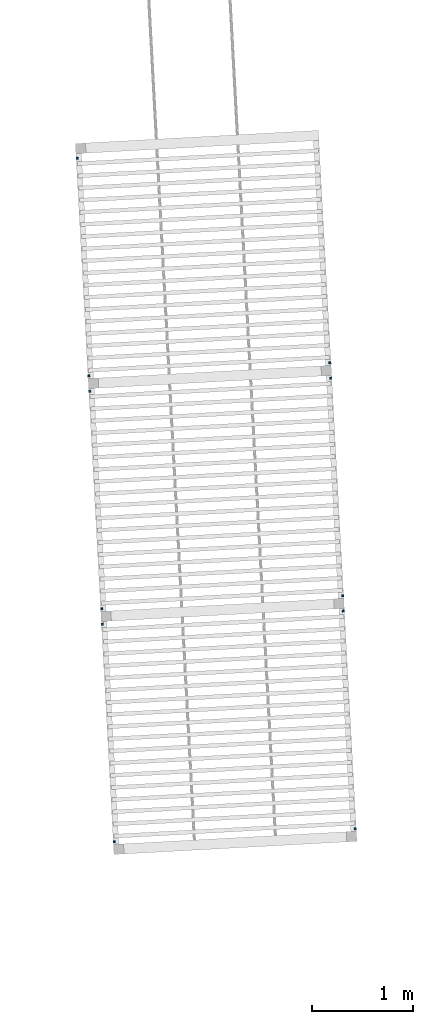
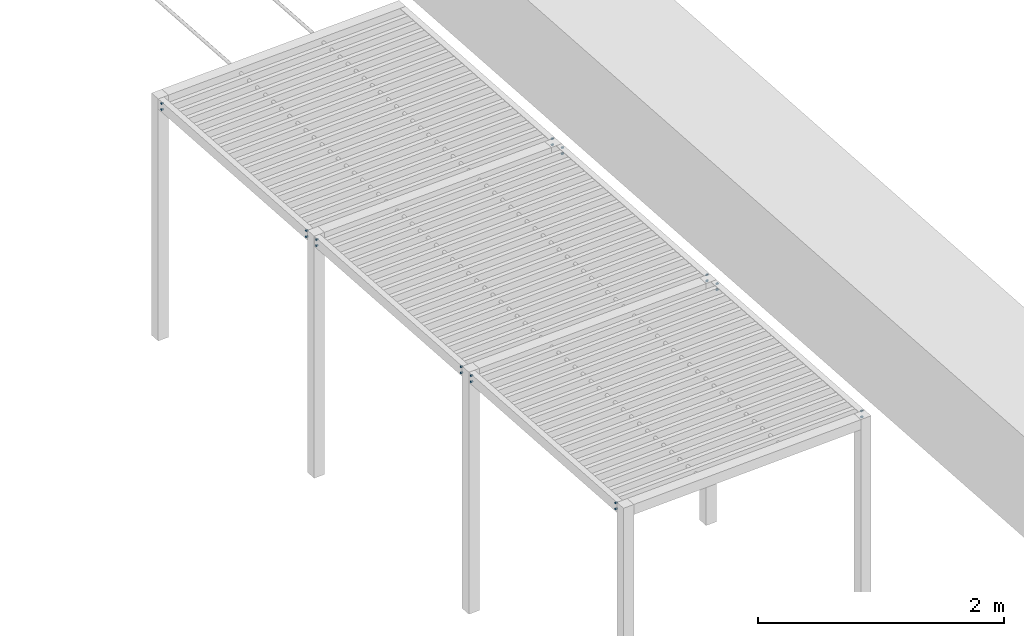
# One storey, part 3 of 438: 22 beams.
"""IFC2X3 building model written with IfcOpenShell, lengths in millimetres."""

from ifc_helpers import new_model, entity, si_unit, converted_unit, derived_unit, direction, frame, origin, origin_2d_with_axis, place, context, subcontext, project, spatial, circle, extrude, material, type_object, element, save


model = new_model("IFC2X3")

# Units and contexts
model_context = context("Model", 3, precision=0.01, world=origin(), true_north=direction((6.123031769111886e-17, 1.0)))
body_context = subcontext(model_context, "Body", "Model", "MODEL_VIEW")
ifc_project = project(units=[si_unit("LENGTHUNIT", "METRE", prefix="MILLI"), si_unit("AREAUNIT", "SQUARE_METRE"), si_unit("VOLUMEUNIT", "CUBIC_METRE"), converted_unit("PLANEANGLEUNIT", "DEGREE", entity("IfcRatioMeasure", 0.017453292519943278), si_unit("PLANEANGLEUNIT", "RADIAN"), dimensions=[0, 0, 0, 0, 0, 0, 0]), si_unit("MASSUNIT", "GRAM", prefix="KILO"), derived_unit("MASSDENSITYUNIT", [(si_unit("MASSUNIT", "GRAM", prefix="KILO"), 1), (si_unit("LENGTHUNIT", "METRE"), -3)]), derived_unit("MOMENTOFINERTIAUNIT", [(si_unit("LENGTHUNIT", "METRE"), 4)]), si_unit("TIMEUNIT", "SECOND"), si_unit("FREQUENCYUNIT", "HERTZ"), si_unit("THERMODYNAMICTEMPERATUREUNIT", "DEGREE_CELSIUS"), derived_unit("THERMALTRANSMITTANCEUNIT", [(si_unit("MASSUNIT", "GRAM", prefix="KILO"), 1), (si_unit("THERMODYNAMICTEMPERATUREUNIT", "KELVIN"), -1), (si_unit("TIMEUNIT", "SECOND"), -3)]), derived_unit("THERMALCONDUCTANCEUNIT", [(si_unit("MASSUNIT", "GRAM", prefix="KILO"), 1), (si_unit("LENGTHUNIT", "METRE"), 1), (si_unit("THERMODYNAMICTEMPERATUREUNIT", "KELVIN"), -1), (si_unit("TIMEUNIT", "SECOND"), -3)]), derived_unit("VOLUMETRICFLOWRATEUNIT", [(si_unit("LENGTHUNIT", "METRE"), 3), (si_unit("TIMEUNIT", "SECOND"), -1)]), derived_unit("MASSFLOWRATEUNIT", [(si_unit("MASSUNIT", "GRAM", prefix="KILO"), 1), (si_unit("TIMEUNIT", "SECOND"), -1)]), derived_unit("ROTATIONALFREQUENCYUNIT", [(si_unit("TIMEUNIT", "SECOND"), -1)]), si_unit("ELECTRICCURRENTUNIT", "AMPERE"), si_unit("ELECTRICVOLTAGEUNIT", "VOLT"), si_unit("POWERUNIT", "WATT"), converted_unit("FORCEUNIT", "KIP", entity("IfcRatioMeasure", 2.088543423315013e-05), si_unit("FORCEUNIT", "NEWTON"), dimensions=[1, 1, -2, 0, 0, 0, 0]), si_unit("ILLUMINANCEUNIT", "LUX"), si_unit("LUMINOUSFLUXUNIT", "LUMEN"), si_unit("LUMINOUSINTENSITYUNIT", "CANDELA"), derived_unit("USERDEFINED", [(si_unit("MASSUNIT", "GRAM", prefix="KILO"), -1), (si_unit("LENGTHUNIT", "METRE"), -2), (si_unit("TIMEUNIT", "SECOND"), 3), (si_unit("LUMINOUSFLUXUNIT", "LUMEN"), 1)]), derived_unit("USERDEFINED", [(si_unit("MASSUNIT", "GRAM", prefix="KILO"), 1), (si_unit("LENGTHUNIT", "METRE"), 3), (si_unit("TIMEUNIT", "SECOND"), -3), (si_unit("ELECTRICCURRENTUNIT", "AMPERE"), -2)]), derived_unit("USERDEFINED", [(si_unit("LENGTHUNIT", "METRE"), 2), (si_unit("TIMEUNIT", "SECOND"), -2)]), derived_unit("SOUNDPOWERUNIT", [(si_unit("MASSUNIT", "GRAM", prefix="KILO"), 1), (si_unit("LENGTHUNIT", "METRE"), 2), (si_unit("TIMEUNIT", "SECOND"), -3)]), derived_unit("SOUNDPRESSUREUNIT", [(si_unit("MASSUNIT", "GRAM", prefix="KILO"), 1), (si_unit("LENGTHUNIT", "METRE"), -1), (si_unit("TIMEUNIT", "SECOND"), -2)]), derived_unit("LINEARVELOCITYUNIT", [(si_unit("LENGTHUNIT", "METRE"), 1), (si_unit("TIMEUNIT", "SECOND"), -1)]), si_unit("PRESSUREUNIT", "PASCAL"), derived_unit("USERDEFINED", [(si_unit("LENGTHUNIT", "METRE"), -2), (si_unit("MASSUNIT", "GRAM", prefix="KILO"), 1), (si_unit("TIMEUNIT", "SECOND"), -2)]), derived_unit("LINEARFORCEUNIT", [(si_unit("MASSUNIT", "GRAM", prefix="KILO"), 1), (si_unit("LENGTHUNIT", "METRE"), 1), (si_unit("TIMEUNIT", "SECOND"), -2), (si_unit("LENGTHUNIT", "METRE"), -1)]), derived_unit("PLANARFORCEUNIT", [(si_unit("MASSUNIT", "GRAM", prefix="KILO"), 1), (si_unit("LENGTHUNIT", "METRE"), 1), (si_unit("TIMEUNIT", "SECOND"), -2), (si_unit("LENGTHUNIT", "METRE"), -2)]), derived_unit("SPECIFICHEATCAPACITYUNIT", [(si_unit("LENGTHUNIT", "METRE"), 2), (si_unit("TIMEUNIT", "SECOND"), -2), (si_unit("THERMODYNAMICTEMPERATUREUNIT", "KELVIN"), -1)]), derived_unit("VAPORPERMEABILITYUNIT", [(si_unit("TIMEUNIT", "SECOND"), 1), (si_unit("LENGTHUNIT", "METRE"), -1)]), derived_unit("DYNAMICVISCOSITYUNIT", [(si_unit("MASSUNIT", "GRAM", prefix="KILO"), 1), (si_unit("LENGTHUNIT", "METRE"), -1), (si_unit("TIMEUNIT", "SECOND"), -1)]), derived_unit("THERMALEXPANSIONCOEFFICIENTUNIT", [(si_unit("THERMODYNAMICTEMPERATUREUNIT", "KELVIN"), -1)])], contexts=[model_context])

# Site, building, storey
site_placement = place(None, frame((0.0, 0.0, 0.0), z_axis=(0.0, 0.0, 1.0), x_axis=(0.8191520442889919, 0.5735764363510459, 0.0)))
site = spatial("IfcSite", under=ifc_project, at=site_placement, Name="Default", CompositionType="ELEMENT")
building_placement = place(site_placement, origin())
building = spatial("IfcBuilding", under=site, at=building_placement, CompositionType="ELEMENT")
storey_placement = place(building_placement, origin())
storey = spatial("IfcBuildingStorey", under=building, at=storey_placement, Name="PLAN", CompositionType="ELEMENT", Elevation=0.0)

# Beams
ifc_material = material(Name="Paint-02.3")
beam_type = type_object("IfcBeamType", Name="Beam-124 291688:Beam-124 291688", PredefinedType="NOTDEFINED")
beam_1_placement = place(storey_placement, origin())
element("IfcBeam", 1, at=beam_1_placement, inside=storey, type_object=beam_type, material=ifc_material, Name="Beam-124", ObjectType="Beam-124 291688:Beam-124 291688", context=body_context, shape_type="SweptSolid", body=[
    extrude(circle(Radius=10.0, at=origin_2d_with_axis()), frame((-18042.56893763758, 88583.55074972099, 320.0), z_axis=(0.8490404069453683, -0.5283279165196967, 0.0), x_axis=(0.0, 0.0, 1.0)), (0.0, 0.0, 1.0), 19.99999999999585),
])
beam_2_placement = place(storey_placement, origin())
element("IfcBeam", 2, at=beam_2_placement, inside=storey, type_object=beam_type, material=ifc_material, Name="Beam-124", ObjectType="Beam-124 291688:Beam-124 291688", context=body_context, shape_type="SweptSolid", body=[
    extrude(circle(Radius=10.0, at=origin_2d_with_axis()), frame((-20142.534293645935, 89713.6151299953, 380.0), z_axis=(0.8490404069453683, -0.5283279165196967, 0.0), x_axis=(0.0, 0.0, 1.0)), (0.0, 0.0, 1.0), 19.9999999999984),
])
beam_3_placement = place(storey_placement, origin())
element("IfcBeam", 3, at=beam_3_placement, inside=storey, type_object=beam_type, material=ifc_material, Name="Beam-124", ObjectType="Beam-124 291688:Beam-124 291688", context=body_context, shape_type="SweptSolid", body=[
    extrude(circle(Radius=10.0, at=origin_2d_with_axis()), frame((-21278.439314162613, 87888.17825506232, 380.0), z_axis=(0.8490404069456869, -0.5283279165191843, 0.0), x_axis=(0.0, 0.0, 1.0)), (0.0, 0.0, 1.0), 19.999999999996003),
])
beam_4_placement = place(storey_placement, origin())
element("IfcBeam", 4, at=beam_4_placement, inside=storey, type_object=beam_type, material=ifc_material, Name="Beam-124", ObjectType="Beam-124 291688:Beam-124 291688", context=body_context, shape_type="SweptSolid", body=[
    extrude(circle(Radius=10.0, at=origin_2d_with_axis()), frame((-21278.439314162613, 87888.17825506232, 320.0), z_axis=(0.8490404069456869, -0.5283279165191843, 0.0), x_axis=(0.0, 0.0, 1.0)), (0.0, 0.0, 1.0), 19.999999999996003),
])
beam_5_placement = place(storey_placement, origin())
element("IfcBeam", 5, at=beam_5_placement, inside=storey, type_object=beam_type, material=ifc_material, Name="Beam-124", ObjectType="Beam-124 291688:Beam-124 291688", context=body_context, shape_type="SweptSolid", body=[
    extrude(circle(Radius=10.0, at=origin_2d_with_axis()), frame((-18927.38008565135, 91666.40806597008, 320.0), z_axis=(0.8490404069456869, -0.5283279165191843, 0.0), x_axis=(0.0, 0.0, 1.0)), (0.0, 0.0, 1.0), 19.999999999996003),
])
beam_6_placement = place(storey_placement, origin())
element("IfcBeam", 6, at=beam_6_placement, inside=storey, type_object=beam_type, material=ifc_material, Name="Beam-124", ObjectType="Beam-124 291688:Beam-124 291688", context=body_context, shape_type="SweptSolid", body=[
    extrude(circle(Radius=10.0, at=origin_2d_with_axis()), frame((-18042.56893763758, 88583.55074972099, 380.0), z_axis=(0.8490404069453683, -0.5283279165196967, 0.0), x_axis=(0.0, 0.0, 1.0)), (0.0, 0.0, 1.0), 19.99999999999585),
])
beam_7_placement = place(storey_placement, origin())
element("IfcBeam", 7, at=beam_7_placement, inside=storey, type_object=beam_type, material=ifc_material, Name="Beam-124", ObjectType="Beam-124 291688:Beam-124 291688", context=body_context, shape_type="SweptSolid", body=[
    extrude(circle(Radius=10.0, at=origin_2d_with_axis()), frame((-20063.28510616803, 89840.97119103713, 320.0), z_axis=(0.8490404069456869, -0.5283279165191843, 0.0), x_axis=(0.0, 0.0, 1.0)), (0.0, 0.0, 1.0), 19.999999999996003),
])
beam_8_placement = place(storey_placement, origin())
element("IfcBeam", 8, at=beam_8_placement, inside=storey, type_object=beam_type, material=ifc_material, Name="Beam-124", ObjectType="Beam-124 291688:Beam-124 291688", context=body_context, shape_type="SweptSolid", body=[
    extrude(circle(Radius=10.0, at=origin_2d_with_axis()), frame((-18927.38008565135, 91666.40806597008, 380.0), z_axis=(0.8490404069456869, -0.5283279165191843, 0.0), x_axis=(0.0, 0.0, 1.0)), (0.0, 0.0, 1.0), 19.999999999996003),
])
beam_9_placement = place(storey_placement, origin())
element("IfcBeam", 9, at=beam_9_placement, inside=storey, type_object=beam_type, material=ifc_material, Name="Beam-124", ObjectType="Beam-124 291688:Beam-124 291688", context=body_context, shape_type="SweptSolid", body=[
    extrude(circle(Radius=10.0, at=origin_2d_with_axis()), frame((-19336.97233311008, 86503.40175270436, 320.0), z_axis=(0.8490404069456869, -0.5283279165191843, 0.0), x_axis=(0.0, 0.0, 1.0)), (0.0, 0.0, 1.0), 19.999999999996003),
])
beam_10_placement = place(storey_placement, origin())
element("IfcBeam", 10, at=beam_10_placement, inside=storey, type_object=beam_type, material=ifc_material, Name="Beam-124", ObjectType="Beam-124 291688:Beam-124 291688", context=body_context, shape_type="SweptSolid", body=[
    extrude(circle(Radius=10.0, at=origin_2d_with_axis()), frame((-22493.5935221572, 85935.38531908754, 380.0), z_axis=(0.8490404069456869, -0.5283279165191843, 0.0), x_axis=(0.0, 0.0, 1.0)), (0.0, 0.0, 1.0), 19.999999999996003),
])
beam_11_placement = place(storey_placement, origin())
element("IfcBeam", 11, at=beam_11_placement, inside=storey, type_object=beam_type, material=ifc_material, Name="Beam-124", ObjectType="Beam-124 291688:Beam-124 291688", context=body_context, shape_type="SweptSolid", body=[
    extrude(circle(Radius=10.0, at=origin_2d_with_axis()), frame((-19336.97233311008, 86503.40175270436, 380.0), z_axis=(0.8490404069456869, -0.5283279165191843, 0.0), x_axis=(0.0, 0.0, 1.0)), (0.0, 0.0, 1.0), 19.999999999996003),
])
beam_12_placement = place(storey_placement, origin())
element("IfcBeam", 12, at=beam_12_placement, inside=storey, type_object=beam_type, material=ifc_material, Name="Beam-124", ObjectType="Beam-124 291688:Beam-124 291688", context=body_context, shape_type="SweptSolid", body=[
    extrude(circle(Radius=10.0, at=origin_2d_with_axis()), frame((-20472.87735362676, 84677.9648777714, 320.0), z_axis=(0.8490404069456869, -0.5283279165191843, 0.0), x_axis=(0.0, 0.0, 1.0)), (0.0, 0.0, 1.0), 19.999999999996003),
])
beam_13_placement = place(storey_placement, origin())
element("IfcBeam", 13, at=beam_13_placement, inside=storey, type_object=beam_type, material=ifc_material, Name="Beam-124", ObjectType="Beam-124 291688:Beam-124 291688", context=body_context, shape_type="SweptSolid", body=[
    extrude(circle(Radius=10.0, at=origin_2d_with_axis()), frame((-20472.87735362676, 84677.9648777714, 380.0), z_axis=(0.8490404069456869, -0.5283279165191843, 0.0), x_axis=(0.0, 0.0, 1.0)), (0.0, 0.0, 1.0), 19.999999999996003),
])
beam_14_placement = place(storey_placement, origin())
element("IfcBeam", 14, at=beam_14_placement, inside=storey, type_object=beam_type, material=ifc_material, Name="Beam-124", ObjectType="Beam-124 291688:Beam-124 291688", context=body_context, shape_type="SweptSolid", body=[
    extrude(circle(Radius=10.0, at=origin_2d_with_axis()), frame((-21357.68850164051, 87760.8221940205, 380.0), z_axis=(0.8490404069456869, -0.5283279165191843, 0.0), x_axis=(0.0, 0.0, 1.0)), (0.0, 0.0, 1.0), 19.999999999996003),
])
beam_15_placement = place(storey_placement, origin())
element("IfcBeam", 15, at=beam_15_placement, inside=storey, type_object=beam_type, material=ifc_material, Name="Beam-124", ObjectType="Beam-124 291688:Beam-124 291688", context=body_context, shape_type="SweptSolid", body=[
    extrude(circle(Radius=10.0, at=origin_2d_with_axis()), frame((-22493.5935221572, 85935.38531908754, 320.0), z_axis=(0.8490404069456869, -0.5283279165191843, 0.0), x_axis=(0.0, 0.0, 1.0)), (0.0, 0.0, 1.0), 19.999999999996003),
])
beam_16_placement = place(storey_placement, origin())
element("IfcBeam", 16, at=beam_16_placement, inside=storey, type_object=beam_type, material=ifc_material, Name="Beam-124", ObjectType="Beam-124 291688:Beam-124 291688", context=body_context, shape_type="SweptSolid", body=[
    extrude(circle(Radius=10.0, at=origin_2d_with_axis()), frame((-21357.68850164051, 87760.8221940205, 320.0), z_axis=(0.8490404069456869, -0.5283279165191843, 0.0), x_axis=(0.0, 0.0, 1.0)), (0.0, 0.0, 1.0), 19.999999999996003),
])
beam_17_placement = place(storey_placement, origin())
element("IfcBeam", 17, at=beam_17_placement, inside=storey, type_object=beam_type, material=ifc_material, Name="Beam-124", ObjectType="Beam-124 291688:Beam-124 291688", context=body_context, shape_type="SweptSolid", body=[
    extrude(circle(Radius=10.0, at=origin_2d_with_axis()), frame((-18121.818125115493, 88456.19468867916, 320.0), z_axis=(0.8490404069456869, -0.5283279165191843, 0.0), x_axis=(0.0, 0.0, 1.0)), (0.0, 0.0, 1.0), 19.999999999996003),
])
beam_18_placement = place(storey_placement, origin())
element("IfcBeam", 18, at=beam_18_placement, inside=storey, type_object=beam_type, material=ifc_material, Name="Beam-124", ObjectType="Beam-124 291688:Beam-124 291688", context=body_context, shape_type="SweptSolid", body=[
    extrude(circle(Radius=10.0, at=origin_2d_with_axis()), frame((-18121.818125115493, 88456.19468867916, 380.0), z_axis=(0.8490404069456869, -0.5283279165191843, 0.0), x_axis=(0.0, 0.0, 1.0)), (0.0, 0.0, 1.0), 19.999999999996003),
])
beam_19_placement = place(storey_placement, origin())
element("IfcBeam", 19, at=beam_19_placement, inside=storey, type_object=beam_type, material=ifc_material, Name="Beam-124", ObjectType="Beam-124 291688:Beam-124 291688", context=body_context, shape_type="SweptSolid", body=[
    extrude(circle(Radius=10.0, at=origin_2d_with_axis()), frame((-19257.72314563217, 86630.75781374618, 320.0), z_axis=(0.8490404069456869, -0.5283279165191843, 0.0), x_axis=(0.0, 0.0, 1.0)), (0.0, 0.0, 1.0), 19.999999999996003),
])
beam_20_placement = place(storey_placement, origin())
element("IfcBeam", 20, at=beam_20_placement, inside=storey, type_object=beam_type, material=ifc_material, Name="Beam-124", ObjectType="Beam-124 291688:Beam-124 291688", context=body_context, shape_type="SweptSolid", body=[
    extrude(circle(Radius=10.0, at=origin_2d_with_axis()), frame((-19257.72314563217, 86630.75781374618, 380.0), z_axis=(0.8490404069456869, -0.5283279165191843, 0.0), x_axis=(0.0, 0.0, 1.0)), (0.0, 0.0, 1.0), 19.999999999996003),
])
beam_21_placement = place(storey_placement, origin())
element("IfcBeam", 21, at=beam_21_placement, inside=storey, type_object=beam_type, material=ifc_material, Name="Beam-124", ObjectType="Beam-124 291688:Beam-124 291688", context=body_context, shape_type="SweptSolid", body=[
    extrude(circle(Radius=10.0, at=origin_2d_with_axis()), frame((-20142.534293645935, 89713.6151299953, 320.0), z_axis=(0.8490404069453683, -0.5283279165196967, 0.0), x_axis=(0.0, 0.0, 1.0)), (0.0, 0.0, 1.0), 19.9999999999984),
])
beam_22_placement = place(storey_placement, origin())
element("IfcBeam", 22, at=beam_22_placement, inside=storey, type_object=beam_type, material=ifc_material, Name="Beam-124", ObjectType="Beam-124 291688:Beam-124 291688", context=body_context, shape_type="SweptSolid", body=[
    extrude(circle(Radius=10.0, at=origin_2d_with_axis()), frame((-20063.28510616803, 89840.97119103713, 380.0), z_axis=(0.8490404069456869, -0.5283279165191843, 0.0), x_axis=(0.0, 0.0, 1.0)), (0.0, 0.0, 1.0), 19.999999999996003),
])

save(model, "model.ifc")
